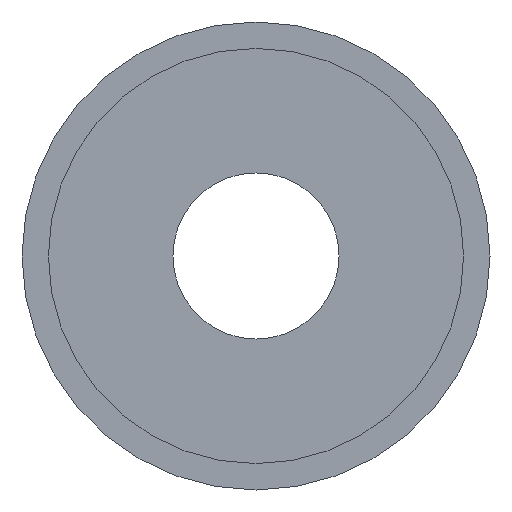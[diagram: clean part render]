
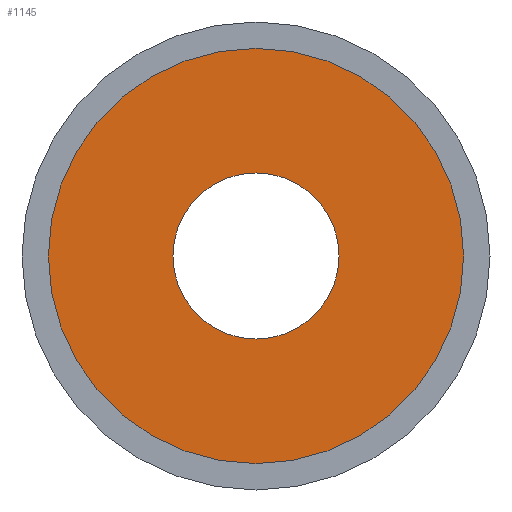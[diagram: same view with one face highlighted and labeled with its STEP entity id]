
A CAD part, front view. The second image highlights one B-rep face of the part: STEP entity #1145.
In plain terms, the highlighted planar face has unit normal (0, -1, 0).
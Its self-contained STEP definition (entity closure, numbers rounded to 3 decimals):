
#57 = CARTESIAN_POINT ( 'NONE',  ( 0., -15., 11. ) ) ;
#91 = VERTEX_POINT ( 'NONE', #881 ) ;
#154 = CARTESIAN_POINT ( 'NONE',  ( 0., -15., 0. ) ) ;
#160 = CARTESIAN_POINT ( 'NONE',  ( 0., -15., 11. ) ) ;
#184 = AXIS2_PLACEMENT_3D ( 'NONE', #403, #1507, #1828 ) ;
#201 = DIRECTION ( 'NONE',  ( 0., 0., -1. ) ) ;
#234 = CIRCLE ( 'NONE', #184, 11. ) ;
#262 = ORIENTED_EDGE ( 'NONE', *, *, #1885, .T. ) ;
#279 = FACE_OUTER_BOUND ( 'NONE', #400, .T. ) ;
#381 = DIRECTION ( 'NONE',  ( 0., 0., -1. ) ) ;
#400 = EDGE_LOOP ( 'NONE', ( #1501, #262 ) ) ;
#403 = CARTESIAN_POINT ( 'NONE',  ( 0., -15., 0. ) ) ;
#421 = AXIS2_PLACEMENT_3D ( 'NONE', #154, #958, #1243 ) ;
#597 = AXIS2_PLACEMENT_3D ( 'NONE', #679, #1275, #201 ) ;
#679 = CARTESIAN_POINT ( 'NONE',  ( 0., -15., 0. ) ) ;
#754 = FACE_BOUND ( 'NONE', #959, .T. ) ;
#801 = CIRCLE ( 'NONE', #597, 27.5 ) ;
#818 = VERTEX_POINT ( 'NONE', #1546 ) ;
#881 = CARTESIAN_POINT ( 'NONE',  ( 0., -15., 27.5 ) ) ;
#958 = DIRECTION ( 'NONE',  ( 0., -1., 0. ) ) ;
#959 = EDGE_LOOP ( 'NONE', ( #1297, #1503 ) ) ;
#1145 = ADVANCED_FACE ( 'NONE', ( #754, #279 ), #1792, .F. ) ;
#1166 = DIRECTION ( 'NONE',  ( 0., 0., 1. ) ) ;
#1233 = EDGE_CURVE ( 'NONE', #1931, #818, #234, .T. ) ;
#1241 = VERTEX_POINT ( 'NONE', #1347 ) ;
#1243 = DIRECTION ( 'NONE',  ( 0., 0., -1. ) ) ;
#1275 = DIRECTION ( 'NONE',  ( 0., -1., 0. ) ) ;
#1297 = ORIENTED_EDGE ( 'NONE', *, *, #1669, .F. ) ;
#1315 = CARTESIAN_POINT ( 'NONE',  ( 0., -15., 0. ) ) ;
#1333 = CIRCLE ( 'NONE', #421, 27.5 ) ;
#1347 = CARTESIAN_POINT ( 'NONE',  ( 0., -15., -27.5 ) ) ;
#1485 = DIRECTION ( 'NONE',  ( 0., 1., 0. ) ) ;
#1495 = DIRECTION ( 'NONE',  ( 0., -1., 0. ) ) ;
#1501 = ORIENTED_EDGE ( 'NONE', *, *, #2053, .T. ) ;
#1503 = ORIENTED_EDGE ( 'NONE', *, *, #1233, .F. ) ;
#1507 = DIRECTION ( 'NONE',  ( 0., -1., 0. ) ) ;
#1546 = CARTESIAN_POINT ( 'NONE',  ( 0., -15., -11. ) ) ;
#1669 = EDGE_CURVE ( 'NONE', #818, #1931, #1817, .T. ) ;
#1771 = AXIS2_PLACEMENT_3D ( 'NONE', #1315, #1495, #381 ) ;
#1792 = PLANE ( 'NONE',  #1849 ) ;
#1817 = CIRCLE ( 'NONE', #1771, 11. ) ;
#1828 = DIRECTION ( 'NONE',  ( 0., 0., -1. ) ) ;
#1849 = AXIS2_PLACEMENT_3D ( 'NONE', #57, #1485, #1166 ) ;
#1885 = EDGE_CURVE ( 'NONE', #91, #1241, #1333, .T. ) ;
#1931 = VERTEX_POINT ( 'NONE', #160 ) ;
#2053 = EDGE_CURVE ( 'NONE', #1241, #91, #801, .T. ) ;
